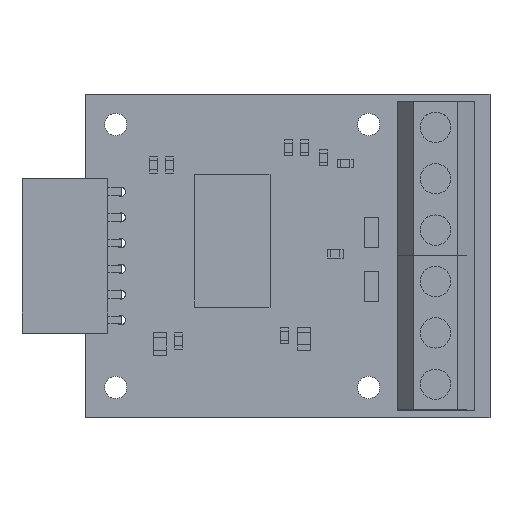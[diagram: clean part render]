
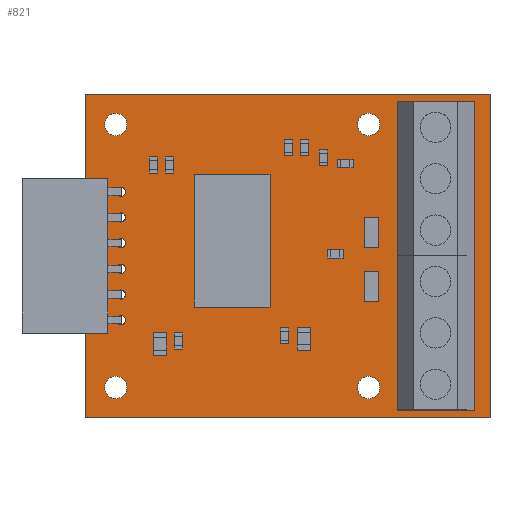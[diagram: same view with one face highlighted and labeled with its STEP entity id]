
A CAD part, top view. The second image highlights one B-rep face of the part: STEP entity #821.
In plain terms, the highlighted planar face has unit normal (0, 0, 1).
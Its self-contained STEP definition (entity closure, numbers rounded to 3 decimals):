
#116 = VERTEX_POINT('',#117);
#117 = CARTESIAN_POINT('',(0.,0.,0.999));
#123 = EDGE_CURVE('',#116,#124,#126,.T.);
#124 = VERTEX_POINT('',#125);
#125 = CARTESIAN_POINT('',(40.,0.,0.999));
#126 = LINE('',#127,#128);
#127 = CARTESIAN_POINT('',(0.,0.,0.999));
#128 = VECTOR('',#129,1.);
#129 = DIRECTION('',(1.,0.,0.));
#154 = EDGE_CURVE('',#124,#155,#157,.T.);
#155 = VERTEX_POINT('',#156);
#156 = CARTESIAN_POINT('',(40.,32.,0.999));
#157 = LINE('',#158,#159);
#158 = CARTESIAN_POINT('',(40.,0.,0.999));
#159 = VECTOR('',#160,1.);
#160 = DIRECTION('',(0.,1.,0.));
#185 = EDGE_CURVE('',#155,#186,#188,.T.);
#186 = VERTEX_POINT('',#187);
#187 = CARTESIAN_POINT('',(0.,32.,0.999));
#188 = LINE('',#189,#190);
#189 = CARTESIAN_POINT('',(40.,32.,0.999));
#190 = VECTOR('',#191,1.);
#191 = DIRECTION('',(-1.,0.,0.));
#216 = EDGE_CURVE('',#186,#116,#217,.T.);
#217 = LINE('',#218,#219);
#218 = CARTESIAN_POINT('',(0.,32.,0.999));
#219 = VECTOR('',#220,1.);
#220 = DIRECTION('',(0.,-1.,0.));
#240 = VERTEX_POINT('',#241);
#241 = CARTESIAN_POINT('',(3.95,12.19,0.999));
#247 = EDGE_CURVE('',#240,#240,#248,.T.);
#248 = CIRCLE('',#249,0.45);
#249 = AXIS2_PLACEMENT_3D('',#250,#251,#252);
#250 = CARTESIAN_POINT('',(3.5,12.19,0.999));
#251 = DIRECTION('',(0.,0.,1.));
#252 = DIRECTION('',(1.,0.,-0.));
#273 = VERTEX_POINT('',#274);
#274 = CARTESIAN_POINT('',(3.95,14.73,0.999));
#280 = EDGE_CURVE('',#273,#273,#281,.T.);
#281 = CIRCLE('',#282,0.45);
#282 = AXIS2_PLACEMENT_3D('',#283,#284,#285);
#283 = CARTESIAN_POINT('',(3.5,14.73,0.999));
#284 = DIRECTION('',(0.,0.,1.));
#285 = DIRECTION('',(1.,0.,-0.));
#306 = VERTEX_POINT('',#307);
#307 = CARTESIAN_POINT('',(4.1,3.,0.999));
#313 = EDGE_CURVE('',#306,#306,#314,.T.);
#314 = CIRCLE('',#315,1.1);
#315 = AXIS2_PLACEMENT_3D('',#316,#317,#318);
#316 = CARTESIAN_POINT('',(3.,3.,0.999));
#317 = DIRECTION('',(0.,0.,1.));
#318 = DIRECTION('',(1.,0.,-0.));
#339 = VERTEX_POINT('',#340);
#340 = CARTESIAN_POINT('',(3.95,9.65,0.999));
#346 = EDGE_CURVE('',#339,#339,#347,.T.);
#347 = CIRCLE('',#348,0.45);
#348 = AXIS2_PLACEMENT_3D('',#349,#350,#351);
#349 = CARTESIAN_POINT('',(3.5,9.65,0.999));
#350 = DIRECTION('',(0.,0.,1.));
#351 = DIRECTION('',(1.,0.,-0.));
#372 = VERTEX_POINT('',#373);
#373 = CARTESIAN_POINT('',(3.95,17.27,0.999));
#379 = EDGE_CURVE('',#372,#372,#380,.T.);
#380 = CIRCLE('',#381,0.45);
#381 = AXIS2_PLACEMENT_3D('',#382,#383,#384);
#382 = CARTESIAN_POINT('',(3.5,17.27,0.999));
#383 = DIRECTION('',(0.,0.,1.));
#384 = DIRECTION('',(1.,0.,-0.));
#405 = VERTEX_POINT('',#406);
#406 = CARTESIAN_POINT('',(3.95,19.81,0.999));
#412 = EDGE_CURVE('',#405,#405,#413,.T.);
#413 = CIRCLE('',#414,0.45);
#414 = AXIS2_PLACEMENT_3D('',#415,#416,#417);
#415 = CARTESIAN_POINT('',(3.5,19.81,0.999));
#416 = DIRECTION('',(0.,0.,1.));
#417 = DIRECTION('',(1.,0.,-0.));
#438 = VERTEX_POINT('',#439);
#439 = CARTESIAN_POINT('',(3.95,22.35,0.999));
#445 = EDGE_CURVE('',#438,#438,#446,.T.);
#446 = CIRCLE('',#447,0.45);
#447 = AXIS2_PLACEMENT_3D('',#448,#449,#450);
#448 = CARTESIAN_POINT('',(3.5,22.35,0.999));
#449 = DIRECTION('',(0.,0.,1.));
#450 = DIRECTION('',(1.,0.,-0.));
#471 = VERTEX_POINT('',#472);
#472 = CARTESIAN_POINT('',(4.1,29.,0.999));
#478 = EDGE_CURVE('',#471,#471,#479,.T.);
#479 = CIRCLE('',#480,1.1);
#480 = AXIS2_PLACEMENT_3D('',#481,#482,#483);
#481 = CARTESIAN_POINT('',(3.,29.,0.999));
#482 = DIRECTION('',(0.,0.,1.));
#483 = DIRECTION('',(1.,0.,-0.));
#504 = VERTEX_POINT('',#505);
#505 = CARTESIAN_POINT('',(35.62,3.3,0.999));
#511 = EDGE_CURVE('',#504,#504,#512,.T.);
#512 = CIRCLE('',#513,0.6);
#513 = AXIS2_PLACEMENT_3D('',#514,#515,#516);
#514 = CARTESIAN_POINT('',(35.02,3.3,0.999));
#515 = DIRECTION('',(0.,0.,1.));
#516 = DIRECTION('',(1.,0.,-0.));
#537 = VERTEX_POINT('',#538);
#538 = CARTESIAN_POINT('',(29.1,3.,0.999));
#544 = EDGE_CURVE('',#537,#537,#545,.T.);
#545 = CIRCLE('',#546,1.1);
#546 = AXIS2_PLACEMENT_3D('',#547,#548,#549);
#547 = CARTESIAN_POINT('',(28.,3.,0.999));
#548 = DIRECTION('',(0.,0.,1.));
#549 = DIRECTION('',(1.,0.,-0.));
#570 = VERTEX_POINT('',#571);
#571 = CARTESIAN_POINT('',(35.62,8.38,0.999));
#577 = EDGE_CURVE('',#570,#570,#578,.T.);
#578 = CIRCLE('',#579,0.6);
#579 = AXIS2_PLACEMENT_3D('',#580,#581,#582);
#580 = CARTESIAN_POINT('',(35.02,8.38,0.999));
#581 = DIRECTION('',(0.,0.,1.));
#582 = DIRECTION('',(1.,0.,-0.));
#603 = VERTEX_POINT('',#604);
#604 = CARTESIAN_POINT('',(35.62,13.46,0.999));
#610 = EDGE_CURVE('',#603,#603,#611,.T.);
#611 = CIRCLE('',#612,0.6);
#612 = AXIS2_PLACEMENT_3D('',#613,#614,#615);
#613 = CARTESIAN_POINT('',(35.02,13.46,0.999));
#614 = DIRECTION('',(0.,0.,1.));
#615 = DIRECTION('',(1.,0.,-0.));
#636 = VERTEX_POINT('',#637);
#637 = CARTESIAN_POINT('',(35.62,18.54,0.999));
#643 = EDGE_CURVE('',#636,#636,#644,.T.);
#644 = CIRCLE('',#645,0.6);
#645 = AXIS2_PLACEMENT_3D('',#646,#647,#648);
#646 = CARTESIAN_POINT('',(35.02,18.54,0.999));
#647 = DIRECTION('',(0.,0.,1.));
#648 = DIRECTION('',(1.,0.,-0.));
#669 = VERTEX_POINT('',#670);
#670 = CARTESIAN_POINT('',(29.1,29.,0.999));
#676 = EDGE_CURVE('',#669,#669,#677,.T.);
#677 = CIRCLE('',#678,1.1);
#678 = AXIS2_PLACEMENT_3D('',#679,#680,#681);
#679 = CARTESIAN_POINT('',(28.,29.,0.999));
#680 = DIRECTION('',(0.,0.,1.));
#681 = DIRECTION('',(1.,0.,-0.));
#702 = VERTEX_POINT('',#703);
#703 = CARTESIAN_POINT('',(35.62,23.62,0.999));
#709 = EDGE_CURVE('',#702,#702,#710,.T.);
#710 = CIRCLE('',#711,0.6);
#711 = AXIS2_PLACEMENT_3D('',#712,#713,#714);
#712 = CARTESIAN_POINT('',(35.02,23.62,0.999));
#713 = DIRECTION('',(0.,0.,1.));
#714 = DIRECTION('',(1.,0.,-0.));
#735 = VERTEX_POINT('',#736);
#736 = CARTESIAN_POINT('',(35.62,28.7,0.999));
#742 = EDGE_CURVE('',#735,#735,#743,.T.);
#743 = CIRCLE('',#744,0.6);
#744 = AXIS2_PLACEMENT_3D('',#745,#746,#747);
#745 = CARTESIAN_POINT('',(35.02,28.7,0.999));
#746 = DIRECTION('',(0.,0.,1.));
#747 = DIRECTION('',(1.,0.,-0.));
#821 = ADVANCED_FACE('',(#822,#828,#831,#834,#837,#840,#843,#846,#849,
    #852,#855,#858,#861,#864,#867,#870,#873),#876,.T.);
#822 = FACE_BOUND('',#823,.T.);
#823 = EDGE_LOOP('',(#824,#825,#826,#827));
#824 = ORIENTED_EDGE('',*,*,#123,.T.);
#825 = ORIENTED_EDGE('',*,*,#154,.T.);
#826 = ORIENTED_EDGE('',*,*,#185,.T.);
#827 = ORIENTED_EDGE('',*,*,#216,.T.);
#828 = FACE_BOUND('',#829,.T.);
#829 = EDGE_LOOP('',(#830));
#830 = ORIENTED_EDGE('',*,*,#247,.F.);
#831 = FACE_BOUND('',#832,.T.);
#832 = EDGE_LOOP('',(#833));
#833 = ORIENTED_EDGE('',*,*,#280,.F.);
#834 = FACE_BOUND('',#835,.T.);
#835 = EDGE_LOOP('',(#836));
#836 = ORIENTED_EDGE('',*,*,#313,.F.);
#837 = FACE_BOUND('',#838,.T.);
#838 = EDGE_LOOP('',(#839));
#839 = ORIENTED_EDGE('',*,*,#346,.F.);
#840 = FACE_BOUND('',#841,.T.);
#841 = EDGE_LOOP('',(#842));
#842 = ORIENTED_EDGE('',*,*,#379,.F.);
#843 = FACE_BOUND('',#844,.T.);
#844 = EDGE_LOOP('',(#845));
#845 = ORIENTED_EDGE('',*,*,#412,.F.);
#846 = FACE_BOUND('',#847,.T.);
#847 = EDGE_LOOP('',(#848));
#848 = ORIENTED_EDGE('',*,*,#445,.F.);
#849 = FACE_BOUND('',#850,.T.);
#850 = EDGE_LOOP('',(#851));
#851 = ORIENTED_EDGE('',*,*,#478,.F.);
#852 = FACE_BOUND('',#853,.T.);
#853 = EDGE_LOOP('',(#854));
#854 = ORIENTED_EDGE('',*,*,#511,.F.);
#855 = FACE_BOUND('',#856,.T.);
#856 = EDGE_LOOP('',(#857));
#857 = ORIENTED_EDGE('',*,*,#544,.F.);
#858 = FACE_BOUND('',#859,.T.);
#859 = EDGE_LOOP('',(#860));
#860 = ORIENTED_EDGE('',*,*,#577,.F.);
#861 = FACE_BOUND('',#862,.T.);
#862 = EDGE_LOOP('',(#863));
#863 = ORIENTED_EDGE('',*,*,#610,.F.);
#864 = FACE_BOUND('',#865,.T.);
#865 = EDGE_LOOP('',(#866));
#866 = ORIENTED_EDGE('',*,*,#643,.F.);
#867 = FACE_BOUND('',#868,.T.);
#868 = EDGE_LOOP('',(#869));
#869 = ORIENTED_EDGE('',*,*,#676,.F.);
#870 = FACE_BOUND('',#871,.T.);
#871 = EDGE_LOOP('',(#872));
#872 = ORIENTED_EDGE('',*,*,#709,.F.);
#873 = FACE_BOUND('',#874,.T.);
#874 = EDGE_LOOP('',(#875));
#875 = ORIENTED_EDGE('',*,*,#742,.F.);
#876 = PLANE('',#877);
#877 = AXIS2_PLACEMENT_3D('',#878,#879,#880);
#878 = CARTESIAN_POINT('',(20.,16.,0.999));
#879 = DIRECTION('',(0.,0.,1.));
#880 = DIRECTION('',(1.,0.,-0.));
